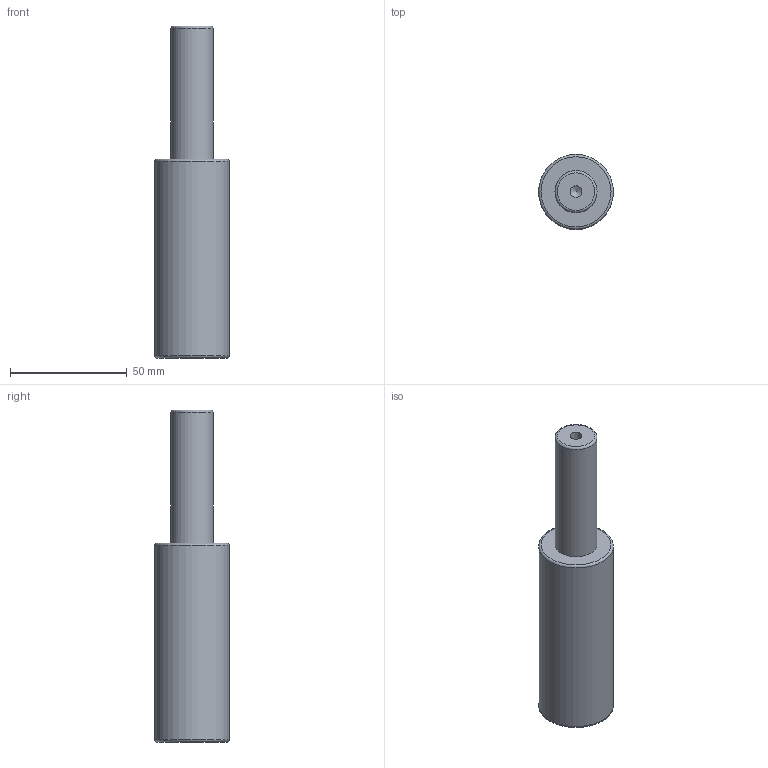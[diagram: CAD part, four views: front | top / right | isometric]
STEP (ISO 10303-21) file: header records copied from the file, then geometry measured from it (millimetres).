
FILE_DESCRIPTION(/* description */ (''),/* implementation_level */ '2;1');
FILE_NAME(/* name */ 'NV5-SMLX.32x56.stp',/* time_stamp */ '2018-08-31T16:08:36+02:00',/* author */ (''),/* organization */ (''),/* preprocessor_version */ 'ST-DEVELOPER v16',/* originating_system */ 'SIEMENS PLM Software NX 10.0',/* authorisation */ '');
FILE_SCHEMA (('AUTOMOTIVE_DESIGN { 1 0 10303 214 3 1 1 1 }'));
Length unit declared in the file: millimetre
Products named in the file (1): NV5-SMLX.32x56
Bounding box: 32 x 32 x 142 mm (x, y, z)
Volume: 82359.8 mm3; surface area: 13617.1 mm2
Topology: 1 solids, 1 shells, 12 faces, 24 edges, 15 vertices
Faces by surface type: cylinder 4, torus 3, plane 3, cone 2
Full cylindrical faces by diameter (mm): 5 x2, 18 x1, 32 x1
Entity records: 266 total; most frequent: DIRECTION 48, CARTESIAN_POINT 37, FACE_BOUND 24, AXIS2_PLACEMENT_3D 24, EDGE_LOOP 22, ORIENTED_EDGE 22, VERTEX_POINT 13, ADVANCED_FACE 12
